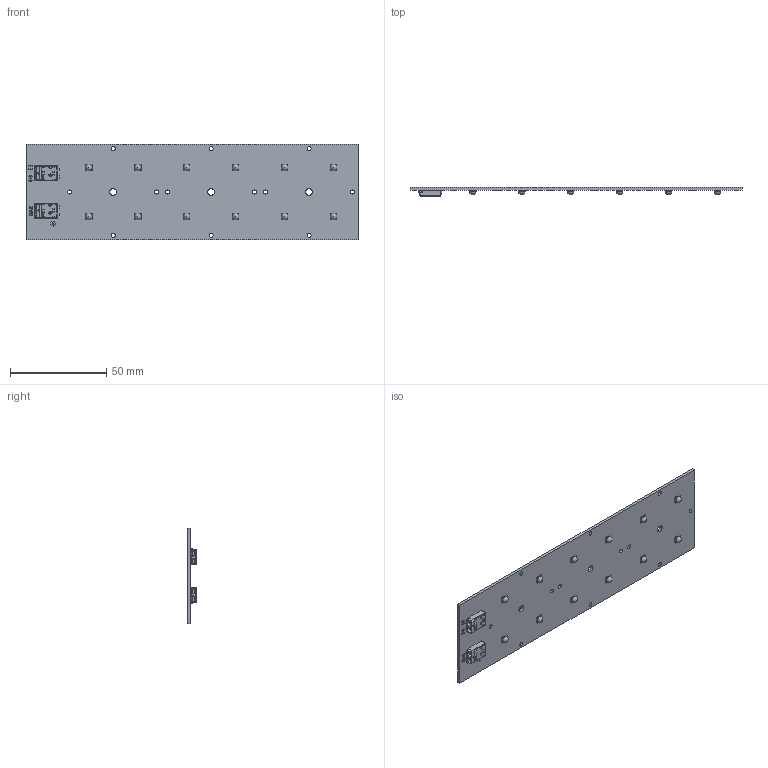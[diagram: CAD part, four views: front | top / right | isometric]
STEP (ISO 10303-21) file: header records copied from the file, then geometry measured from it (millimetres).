
FILE_DESCRIPTION(/* description */ ('Unknown'),/* implementation_level */ '2;1');
FILE_NAME(/* name */ 'RecLED 173x50mm 2900lm 2x6 3535 sh-000 2023-12-18',/* time_stamp */ '2023-12-18T10:20:29+01:00',/* author */ ('Unknown'),/* organization */ ('Unknown'),/* preprocessor_version */ 'ST-DEVELOPER v18.102',/* originating_system */ 'Solid Edge',/* authorisation */ 'Unknown');
FILE_SCHEMA (('AUTOMOTIVE_DESIGN {1 0 10303 214 3 1 1}'));
Length unit declared in the file: millimetre
Products named in the file (1): RecLED 173x50mm 2900lm 2x6 3535 sh-000 2023-12-18
Bounding box: 172.2 x 4.95 x 49.5 mm (x, y, z)
Volume: 13389.4 mm3; surface area: 18795 mm2
Topology: 1 solids, 1 shells, 1254 faces, 3364 edges, 2132 vertices
Faces by surface type: plane 659, cylinder 311, torus 116, cone 88, bspline 48, sphere 32
Full cylindrical faces by diameter (mm): 2.1 x12, 3.5 x3
Entity records: 49214 total; most frequent: CARTESIAN_POINT 11024, ORIENTED_EDGE 6502, DIRECTION 5328, EDGE_CURVE 3251, VERTEX_POINT 2086, LINE 1786, VECTOR 1786, AXIS2_PLACEMENT_3D 1771
